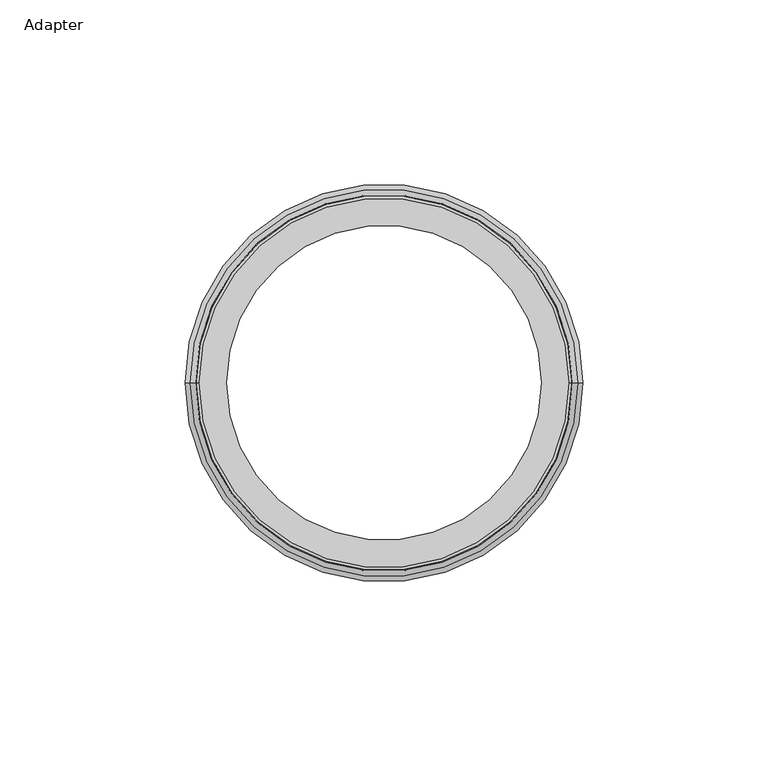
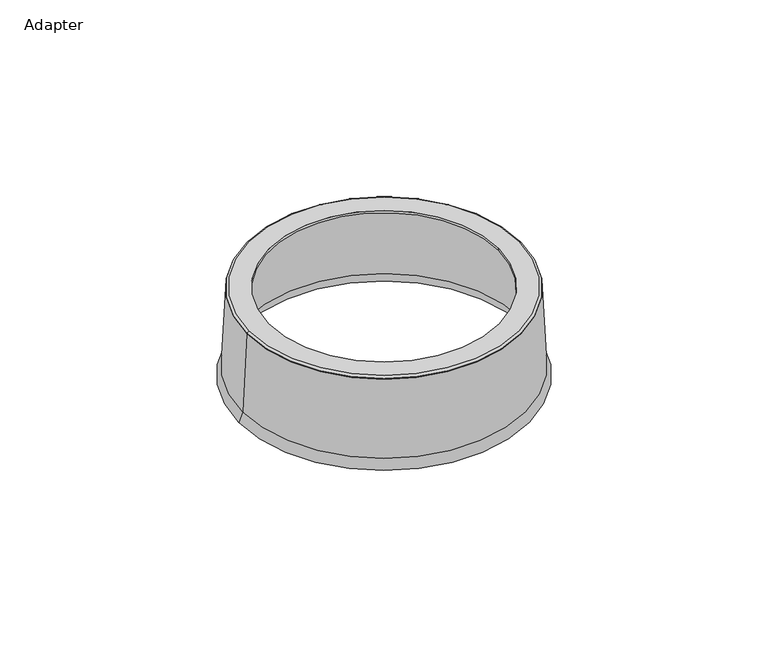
"""IFC4 building model written with IfcOpenShell, lengths in millimetres: proxy geometry, GROVIK_Special_Adapter : Adapter."""

from ifc_helpers import new_model, si_unit, point, frame, origin, origin_with_axes, place, context, project, spatial, polyline, circle_curve, ellipse_curve, trimmed, source, transform, mapped, element, save
from ifc_brep_helpers import plane_surface, revolved_surface, advanced_brep


def adapter_31107c8c(model_context):
    return source(origin(), model_context, "Body", "AdvancedBrep", [
        advanced_brep(
        [(-50.9009919, 0.0, 0.0), (50.9009919, 0.0, 0.0), (52.3952891, 0.0, -29.9705364), (-52.3952891, 0.0, -29.9705364), (-50.0009919, 0.0, 0.0), (50.0009919, 0.0, 0.0), (-51.5044574, 0.0, -30.1544202), (51.5044574, 0.0, -30.1544202), (-52.9176463, 0.0, -34.037125), (52.9176463, 0.0, -34.037125), (-53.7633697, 0.0, -33.7293068), (53.7633697, 0.0, -33.7293068)],
        [
            (0, 1, circle_curve(frame((0.0, 0.0, 0.0), z_axis=(0.0, 0.0, -1.0), x_axis=(1.0, 0.0, 0.0)), 50.9009919)),
            (1, 2),
            (2, 3, circle_curve(frame((0.0, 0.0, -29.9705364), z_axis=(0.0, 0.0, 1.0), x_axis=(1.0, 0.0, 0.0)), 52.3952891)),
            (3, 0),
            (1, 0, circle_curve(frame((0.0, 0.0, 0.0), z_axis=(0.0, 0.0, -1.0), x_axis=(1.0, 0.0, 0.0)), 50.9009919)),
            (3, 2, circle_curve(frame((0.0, 0.0, -29.9705364), z_axis=(0.0, 0.0, 1.0), x_axis=(1.0, 0.0, 0.0)), 52.3952891)),
            (4, 5, circle_curve(frame((0.0, 0.0, 0.0), z_axis=(0.0, 0.0, -1.0), x_axis=(1.0, 0.0, 0.0)), 50.0009919)),
            (5, 1),
            (0, 4),
            (5, 4, circle_curve(frame((0.0, 0.0, 0.0), z_axis=(0.0, 0.0, -1.0), x_axis=(1.0, 0.0, 0.0)), 50.0009919)),
            (6, 7, circle_curve(frame((0.0, 0.0, -30.1544202), z_axis=(0.0, 0.0, -1.0), x_axis=(1.0, 0.0, 0.0)), 51.5044574)),
            (7, 5),
            (4, 6),
            (7, 6, circle_curve(frame((0.0, 0.0, -30.1544202), z_axis=(0.0, 0.0, -1.0), x_axis=(1.0, 0.0, 0.0)), 51.5044574)),
            (8, 9, circle_curve(frame((0.0, 0.0, -34.037125), z_axis=(0.0, 0.0, -1.0), x_axis=(1.0, 0.0, 0.0)), 52.9176463)),
            (9, 7),
            (6, 8),
            (9, 8, circle_curve(frame((0.0, 0.0, -34.037125), z_axis=(0.0, 0.0, -1.0), x_axis=(1.0, 0.0, 0.0)), 52.9176463)),
            (10, 11, circle_curve(frame((0.0, 0.0, -33.7293068), z_axis=(0.0, 0.0, -1.0), x_axis=(1.0, 0.0, 0.0)), 53.7633697)),
            (11, 9),
            (8, 10),
            (11, 10, circle_curve(frame((0.0, 0.0, -33.7293068), z_axis=(0.0, 0.0, -1.0), x_axis=(1.0, 0.0, 0.0)), 53.7633697)),
            (2, 11),
            (10, 3),
        ],
        [
            revolved_surface(polyline([(52.3952891, 0.0, -29.9705364), (50.9009919, 0.0, 0.0)]), (0.0, 0.0, 2214.3150031), (0.0, 0.0, 1.0)),
            plane_surface(origin_with_axes()),
            revolved_surface(polyline([(50.0009919, 0.0, 0.0), (51.5044574, 0.0, -30.1544202)]), (0.0, 0.0, 2214.3150031), (0.0, 0.0, 1.0)),
            revolved_surface(polyline([(51.5044574, 0.0, -30.1544202), (52.9176463, 0.0, -34.037125)]), (0.0, 0.0, 2214.3150031), (0.0, 0.0, 1.0)),
            revolved_surface(polyline([(52.9176463, 0.0, -34.037125), (53.7633697, 0.0, -33.7293068)]), (0.0, 0.0, 2214.3150031), (0.0, 0.0, 1.0)),
            revolved_surface(polyline([(53.7633697, 0.0, -33.7293068), (52.3952891, 0.0, -29.9705364)]), (0.0, 0.0, 2214.3150031), (0.0, 0.0, 1.0)),
        ],
        [
            (0, [[1, 2, 3, 4]]),
            (0, [[5, -4, 6, -2]]),
            (1, [[7, 8, -1, 9]]),
            (1, [[10, -9, -5, -8]]),
            (2, [[11, 12, -7, 13]]),
            (2, [[14, -13, -10, -12]]),
            (3, [[15, 16, -11, 17]]),
            (3, [[18, -17, -14, -16]]),
            (4, [[19, 20, -15, 21]]),
            (4, [[22, -21, -18, -20]]),
            (5, [[-3, 23, -19, 24]]),
            (5, [[-6, -24, -22, -23]]),
        ],
    ),
        advanced_brep(
        [(49.9260695, 0.0, 0.9), (-49.9260695, 0.0, 0.9), (-42.5, 0.0, 0.9), (42.5, 0.0, 0.9), (-50.9009919, 0.0, 0.0), (50.9009919, 0.0, 0.0), (-42.5, 0.0, 0.0), (42.5, 0.0, 0.0)],
        [
            (0, 1, circle_curve(frame((0.0, 0.0, 0.9), z_axis=(0.0, 0.0, 1.0), x_axis=(1.0, 0.0, 0.0)), 49.9260695)),
            (1, 0, circle_curve(frame((0.0, 0.0, 0.9), z_axis=(0.0, 0.0, 1.0), x_axis=(1.0, 0.0, 0.0)), 49.9260695)),
            (2, 3, circle_curve(frame((0.0, 0.0, 0.9), z_axis=(0.0, 0.0, -1.0), x_axis=(1.0, 0.0, 0.0)), 42.5)),
            (3, 2, circle_curve(frame((0.0, 0.0, 0.9), z_axis=(0.0, 0.0, -1.0), x_axis=(1.0, 0.0, 0.0)), 42.5)),
            (4, 5, circle_curve(frame((0.0, 0.0, 0.0), z_axis=(0.0, 0.0, -1.0), x_axis=(1.0, 0.0, 0.0)), 50.9009919)),
            (5, 4, circle_curve(frame((0.0, 0.0, 0.0), z_axis=(0.0, 0.0, -1.0), x_axis=(1.0, 0.0, 0.0)), 50.9009919)),
            (6, 7, circle_curve(origin_with_axes(), 42.5)),
            (7, 6, circle_curve(origin_with_axes(), 42.5)),
            (3, 7),
            (6, 2),
            (4, 1, circle_curve(frame((-49.909864, 0.0, -0.0955955), z_axis=(0.0, 1.0, 0.0), x_axis=(-1.0, 0.0, 0.0)), 0.9957273)),
            (0, 5, circle_curve(frame((49.909864, 0.0, -0.0955955), z_axis=(0.0, 1.0, 0.0), x_axis=(1.0, 0.0, 0.0)), 0.9957273)),
        ],
        [
            plane_surface(frame((42.5, 0.0, 0.9), z_axis=(0.0, 0.0, 1.0), x_axis=(0.0, -1.0, 0.0))),
            plane_surface(frame((42.5, 0.0, 0.0), z_axis=(0.0, 0.0, -1.0), x_axis=(0.0, 1.0, 0.0))),
            revolved_surface(polyline([(42.5, 0.0, 0.0), (42.5, 0.0, 0.9)]), (0.0, 0.0, 0.0), (0.0, 0.0, -1.0)),
            revolved_surface(trimmed(ellipse_curve(frame((49.909864, 0.0, -0.0955955), z_axis=(0.0, -1.0, 0.0), x_axis=(1.0, 0.0, 0.0)), 0.9957273, 0.9957273), [point((50.9009919, 0.0, 0.0))], [point((49.9260695, 0.0, 0.9))], True, "CARTESIAN"), (0.0, 0.0, 2214.3150031), (0.0, 0.0, 1.0)),
        ],
        [
            (0, [[1, 2], [3, 4]]),
            (1, [[5, 6], [7, 8]]),
            (2, [[-4, 9, -7, 10]]),
            (2, [[-3, -10, -8, -9]]),
            (3, [[11, -1, 12, -5]]),
            (3, [[-11, -6, -12, -2]]),
        ],
    ),
    ])


if __name__ == "__main__":
    model = new_model("IFC4")
    model_context = context("Model", 3, world=origin())
    ifc_project = project(units=[si_unit("LENGTHUNIT", "METRE", prefix="MILLI")], contexts=[model_context])
    site = spatial("IfcSite", under=ifc_project)
    building = spatial("IfcBuilding", under=site)
    placement = place(None, origin())
    adapter_shape = adapter_31107c8c(model_context)
    element("IfcBuildingElementProxy", 1, Name="GROVIK_Special_Adapter : Adapter", ObjectType="GROVIK_Special_Adapter : Adapter", at=placement, inside=building, context=model_context, shape_type="MappedRepresentation", body=[
        mapped(adapter_shape, transform((0.0, 0.0, 0.0), x_axis=(1.0, 0.0, 0.0), y_axis=(0.0, 1.0, 0.0), z_axis=(0.0, 0.0, 1.0))),
    ])
    save(model, "model.ifc")
